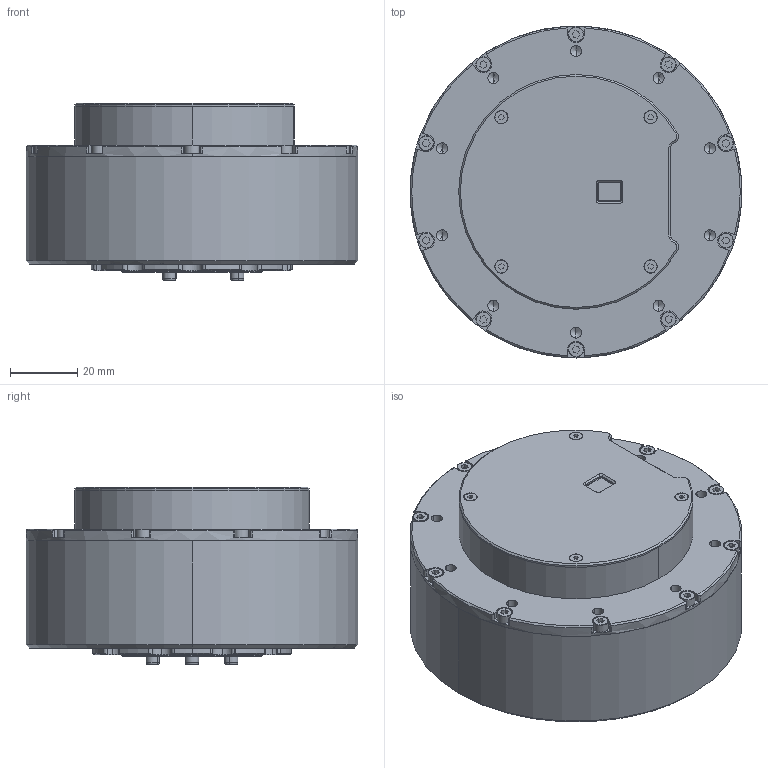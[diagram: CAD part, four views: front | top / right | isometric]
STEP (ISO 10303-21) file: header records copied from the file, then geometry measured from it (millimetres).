
FILE_DESCRIPTION (( 'STEP AP214' ), '1' );
FILE_NAME ('MG8016-3D.STEP', '2023-12-28T07:02:49', ( 'zhang_jianheng@outlook.com' ), ( 'HP' ), 'SwSTEP 2.0', 'SolidWorks 2020', '' );
FILE_SCHEMA (( 'AUTOMOTIVE_DESIGN' ));
Length unit declared in the file: millimetre
Products named in the file (1): MG8016-3D
Bounding box: 99 x 99 x 53 mm (x, y, z)
Volume: 267771.6 mm3; surface area: 71597.7 mm2
Topology: 49 solids, 51 shells, 2401 faces, 6066 edges, 3892 vertices
Faces by surface type: plane 1290, cylinder 782, cone 248, torus 44, bspline 37
Entity records: 102070 total; most frequent: CARTESIAN_POINT 16207, DIRECTION 12523, ORIENTED_EDGE 11996, EDGE_CURVE 5998, AXIS2_PLACEMENT_3D 4322, VERTEX_POINT 3892, LINE 3879, VECTOR 3879
